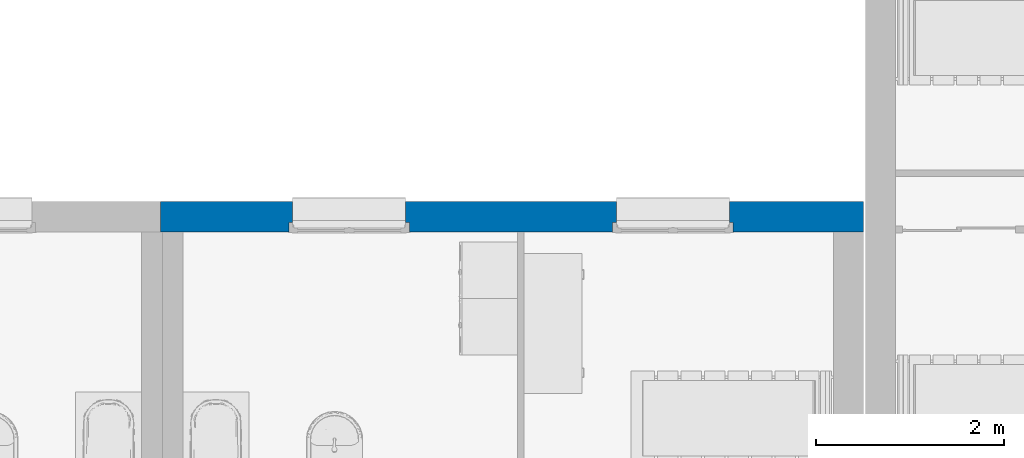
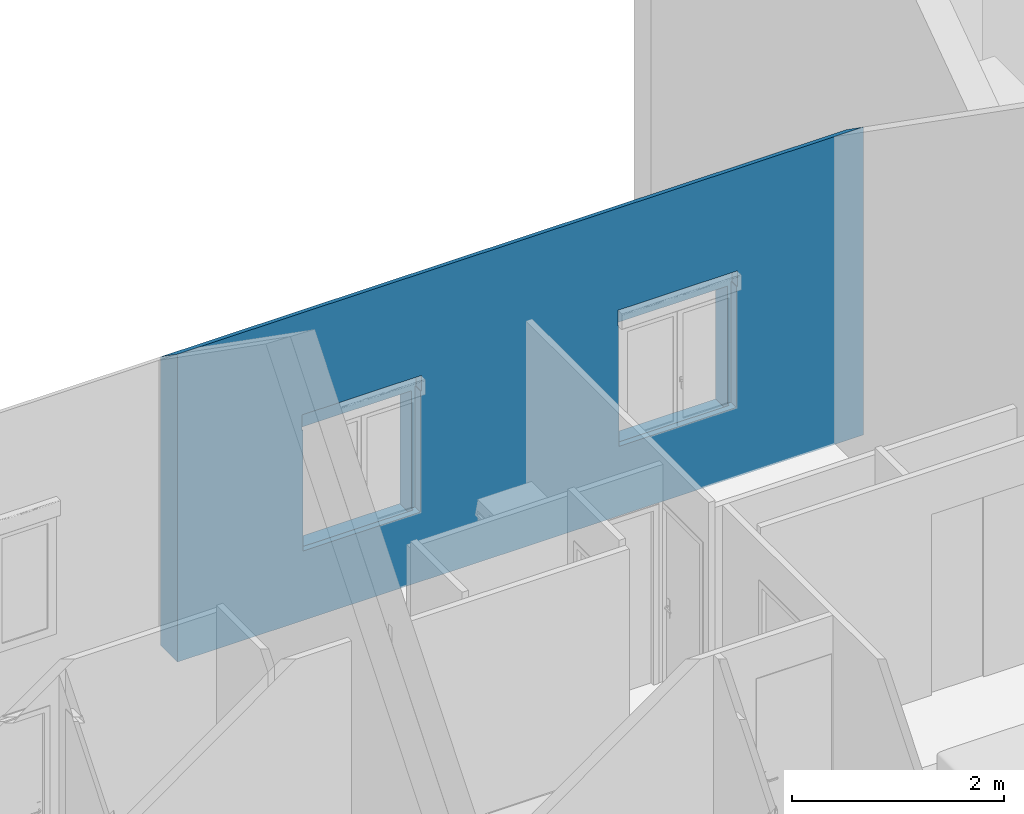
# One storey, part 22 of 50: 1 wall, 2 openings.
"""IFC2X3 building model written with IfcOpenShell, lengths in metres."""

from ifc_helpers import new_model, entity, si_unit, converted_unit, derived_unit, direction, frame, frame_2d, origin, place, context, subcontext, project, spatial, polyline, rectangle, extrude, clip, bounded_halfspace, faceted_brep, material, layer, layer_set, layer_usage, type_object, element, save


model = new_model("IFC2X3")

# Units and contexts
model_context = context("Model", 3, precision=1e-05, world=origin(), true_north=direction((6.12303176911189e-17, 1.0)))
context_of_model = context(None, 3, precision=1e-05, world=origin(), true_north=direction((6.12303176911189e-17, 1.0)))
body_context = subcontext(model_context, "Body", "Model", "MODEL_VIEW")
ifc_project = project(units=[si_unit("LENGTHUNIT", "METRE"), si_unit("AREAUNIT", "SQUARE_METRE"), si_unit("VOLUMEUNIT", "CUBIC_METRE"), converted_unit("PLANEANGLEUNIT", "DEGREE", entity("IfcRatioMeasure", 0.0174532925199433), si_unit("PLANEANGLEUNIT", "RADIAN"), dimensions=[0, 0, 0, 0, 0, 0, 0]), si_unit("MASSUNIT", "GRAM", prefix="KILO"), si_unit("TIMEUNIT", "SECOND"), si_unit("FREQUENCYUNIT", "HERTZ"), si_unit("THERMODYNAMICTEMPERATUREUNIT", "DEGREE_CELSIUS"), derived_unit("THERMALTRANSMITTANCEUNIT", [(si_unit("MASSUNIT", "GRAM", prefix="KILO"), 1), (si_unit("THERMODYNAMICTEMPERATUREUNIT", "KELVIN"), -1), (si_unit("TIMEUNIT", "SECOND"), -3)]), derived_unit("VOLUMETRICFLOWRATEUNIT", [(si_unit("LENGTHUNIT", "METRE"), 3), (si_unit("TIMEUNIT", "SECOND"), -1)]), si_unit("ELECTRICCURRENTUNIT", "AMPERE"), si_unit("ELECTRICVOLTAGEUNIT", "VOLT"), si_unit("POWERUNIT", "WATT"), si_unit("FORCEUNIT", "NEWTON", prefix="KILO"), si_unit("ILLUMINANCEUNIT", "LUX"), si_unit("LUMINOUSFLUXUNIT", "LUMEN"), si_unit("LUMINOUSINTENSITYUNIT", "CANDELA"), si_unit("PRESSUREUNIT", "PASCAL")], contexts=[model_context, context_of_model])

# Site, building, storey
site_placement = place(None, origin())
site = spatial("IfcSite", under=ifc_project, at=site_placement, Name="Surface", CompositionType="ELEMENT")
building_placement = place(site_placement, origin())
building = spatial("IfcBuilding", under=site, at=building_placement, CompositionType="ELEMENT")
storey_placement = place(building_placement, frame((0.0, 0.0, 2.82)))
storey = spatial("IfcBuildingStorey", under=building, at=storey_placement, Name="ETAGE", CompositionType="ELEMENT", Elevation=2.82)

# Wall, openings
ifc_material_1 = material(Name="Enduit blanc cassé2")
ifc_layer_1 = layer(ifc_material_1, 0.02)
ifc_material_2 = material(Name="Parpaing")
ifc_layer_2 = layer(ifc_material_2, 0.2)
ifc_material_3 = material(Name="Isolant")
ifc_layer_3 = layer(ifc_material_3, 0.1)
ifc_layer_set = layer_set([ifc_layer_1, ifc_layer_2, ifc_layer_3], Name="Mur de base:Ext. Parpaing 20 + Isolant 10 enduit blanc cassé")
ifc_layer_usage = layer_usage(ifc_layer_set, "AXIS2", "NEGATIVE", 0.16)
wall_type = type_object("IfcWallType", Name="Mur de base:Ext. Parpaing 20 + Isolant 10 enduit blanc cassé", PredefinedType="STANDARD", material=ifc_layer_set)
wall_placement = place(storey_placement, frame((68.8167429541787, 88.2677566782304, 0.0)))
wall = element("IfcWallStandardCase", 1, at=wall_placement, inside=storey, type_object=wall_type, material=ifc_layer_usage, Name="Mur de base:Ext. Parpaing 20 + Isolant 10 enduit blanc cassé", ObjectType="Mur de base:Ext. Parpaing 20 + Isolant 10 enduit blanc cassé", context=body_context, shape_type="Clipping", body=[
    clip(extrude(rectangle(XDim=7.46614635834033, YDim=0.319999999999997, at=frame_2d((3.73307317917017, 2.55351295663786e-15), x_axis=(-1.0, 0.0))), origin(), (0.0, 0.0, 1.0), 3.54406641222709), bounded_halfspace(frame((0.0, -0.159999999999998, 3.54406641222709), z_axis=(0.0, 0.573576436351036, 0.819152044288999), x_axis=(-1.0, 0.0, 0.0)), False, frame((0.0, -0.159999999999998, 3.54406641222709)), polyline([(0.0, 0.0), (0.0175000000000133, 0.0), (0.0182668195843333, 0.0), (0.237500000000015, 0.0), (7.14614635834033, 0.0), (7.46614635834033, 0.0), (7.46614635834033, 0.319999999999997), (0.0, 0.319999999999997), (0.0, 0.0)]))),
])
opening_1_placement = place(wall_placement, frame((1.35394170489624, -0.500000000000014, 0.719999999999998)))
element("IfcOpeningElement", 2, at=opening_1_placement, cuts=wall, Name="Mur de base:Ext. Parpaing 20 + Isolant 10 enduit blanc cassé", ObjectType="Opening", context=body_context, shape_type="Brep", body=[
    faceted_brep([(1.24999999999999, 0.0, 1.43), (0.0499999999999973, 0.0, 1.43), (0.0499999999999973, 0.0, 0.0800000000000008), (1.24999999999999, 0.0, 0.0800000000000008), (1.25, 1.0, 1.43), (1.25, 1.0, 0.0800000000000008), (0.050000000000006, 1.0, 0.0800000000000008), (0.050000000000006, 1.0, 1.43), (1.25, 0.327000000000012, 1.43), (0.050000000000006, 0.327000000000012, 1.43), (0.0499999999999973, 0.326999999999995, 0.0800000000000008), (0.00999999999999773, 0.326999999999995, 0.0800000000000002), (0.00999999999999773, 0.440000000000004, 0.0800000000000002), (0.0499999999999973, 0.440000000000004, 0.0800000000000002), (0.0499999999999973, 0.405000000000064, 0.0800000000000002), (1.25, 0.405000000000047, 0.0800000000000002), (1.25, 0.440000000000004, 0.0800000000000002), (1.29, 0.440000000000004, 0.0800000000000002), (1.29, 0.326999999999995, 0.0800000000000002), (1.25, 0.326999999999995, 0.0800000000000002), (1.29, 0.327000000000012, 1.47), (0.00999999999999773, 0.327000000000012, 1.47), (0.00999999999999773, 0.440000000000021, 1.47), (0.0, 0.440000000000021, 1.47), (0.0, 0.440000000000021, 1.65), (1.3, 0.440000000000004, 1.65), (1.3, 0.440000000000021, 1.47), (1.28999999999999, 0.440000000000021, 1.47), (1.25, 0.440000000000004, 1.43), (0.050000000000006, 0.440000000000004, 1.43), (0.0, 0.307000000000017, 1.65), (0.0, 0.307000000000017, 1.47), (1.3, 0.307000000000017, 1.65), (1.3, 0.307000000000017, 1.47), (0.0499999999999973, 0.440000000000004, 0.0), (1.24999999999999, 0.440000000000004, 0.0), (1.25, 0.405000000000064, 0.0349999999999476), (0.0499999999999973, 0.405000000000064, 0.0349999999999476), (0.050000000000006, 0.705000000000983, 0.0800000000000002), (1.25, 0.705000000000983, 0.0800000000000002), (1.25000000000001, 0.705000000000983, 0.0), (0.0499999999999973, 0.705000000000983, 0.0)], [[[0, 1, 2, 3]], [[4, 5, 6, 7]], [[0, 8, 9, 1]], [[1, 9, 10, 2]], [[2, 10, 11, 12, 13, 14, 15, 16, 17, 18, 19, 3]], [[3, 19, 8, 0]], [[10, 9, 8, 19, 18, 20, 21, 11]], [[11, 21, 22, 12]], [[12, 22, 23, 24, 25, 26, 27, 17, 16, 28, 29, 13]], [[18, 17, 27, 20]], [[30, 24, 23, 31]], [[32, 33, 26, 25]], [[30, 32, 25, 24]], [[23, 22, 21, 20, 27, 26, 33, 31]], [[31, 33, 32, 30]], [[34, 35, 36, 37]], [[37, 36, 15, 14]], [[38, 39, 40, 41]], [[41, 40, 35, 34]], [[4, 28, 16, 15, 36, 35, 40, 39, 5]], [[5, 39, 38, 6]], [[6, 38, 41, 34, 37, 14, 13, 29, 7]], [[7, 29, 28, 4]]]),
])
opening_2_placement = place(wall_placement, frame((4.79307317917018, -0.500000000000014, 0.719999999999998)))
element("IfcOpeningElement", 3, at=opening_2_placement, cuts=wall, Name="Mur de base:Ext. Parpaing 20 + Isolant 10 enduit blanc cassé", ObjectType="Opening", context=body_context, shape_type="Brep", body=[
    faceted_brep([(1.24999999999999, 0.0, 1.43), (0.0499999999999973, 0.0, 1.43), (0.0499999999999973, 0.0, 0.0800000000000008), (1.24999999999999, 0.0, 0.0800000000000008), (1.25, 1.0, 1.43), (1.25, 1.0, 0.0800000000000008), (0.050000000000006, 1.0, 0.0800000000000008), (0.050000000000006, 1.0, 1.43), (1.25, 0.326999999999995, 1.43), (0.050000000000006, 0.326999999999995, 1.43), (0.0499999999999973, 0.326999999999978, 0.0800000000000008), (0.00999999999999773, 0.326999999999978, 0.0800000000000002), (0.00999999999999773, 0.439999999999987, 0.0800000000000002), (0.0499999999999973, 0.439999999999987, 0.0800000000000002), (0.0499999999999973, 0.405000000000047, 0.0800000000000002), (1.25, 0.405000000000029, 0.0800000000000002), (1.25, 0.439999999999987, 0.0800000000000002), (1.29, 0.439999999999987, 0.0800000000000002), (1.29, 0.326999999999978, 0.0800000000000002), (1.25, 0.326999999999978, 0.0800000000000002), (1.29, 0.326999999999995, 1.47), (0.00999999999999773, 0.326999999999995, 1.47), (0.00999999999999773, 0.440000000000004, 1.47), (0.0, 0.440000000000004, 1.47), (0.0, 0.440000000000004, 1.65), (1.3, 0.439999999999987, 1.65), (1.3, 0.440000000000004, 1.47), (1.28999999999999, 0.440000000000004, 1.47), (1.25, 0.439999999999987, 1.43), (0.050000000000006, 0.439999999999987, 1.43), (0.0, 0.307, 1.65), (0.0, 0.307, 1.47), (1.3, 0.307, 1.65), (1.3, 0.307, 1.47), (0.0499999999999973, 0.439999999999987, 0.0), (1.24999999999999, 0.439999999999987, 0.0), (1.25, 0.405000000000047, 0.0349999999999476), (0.0499999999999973, 0.405000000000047, 0.0349999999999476), (0.050000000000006, 0.705000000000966, 0.0800000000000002), (1.25, 0.705000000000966, 0.0800000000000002), (1.25000000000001, 0.705000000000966, 0.0), (0.0499999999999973, 0.705000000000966, 0.0)], [[[0, 1, 2, 3]], [[4, 5, 6, 7]], [[0, 8, 9, 1]], [[1, 9, 10, 2]], [[2, 10, 11, 12, 13, 14, 15, 16, 17, 18, 19, 3]], [[3, 19, 8, 0]], [[10, 9, 8, 19, 18, 20, 21, 11]], [[11, 21, 22, 12]], [[12, 22, 23, 24, 25, 26, 27, 17, 16, 28, 29, 13]], [[18, 17, 27, 20]], [[30, 24, 23, 31]], [[32, 33, 26, 25]], [[30, 32, 25, 24]], [[23, 22, 21, 20, 27, 26, 33, 31]], [[31, 33, 32, 30]], [[34, 35, 36, 37]], [[37, 36, 15, 14]], [[38, 39, 40, 41]], [[41, 40, 35, 34]], [[4, 28, 16, 15, 36, 35, 40, 39, 5]], [[5, 39, 38, 6]], [[6, 38, 41, 34, 37, 14, 13, 29, 7]], [[7, 29, 28, 4]]]),
])

save(model, "model.ifc")
